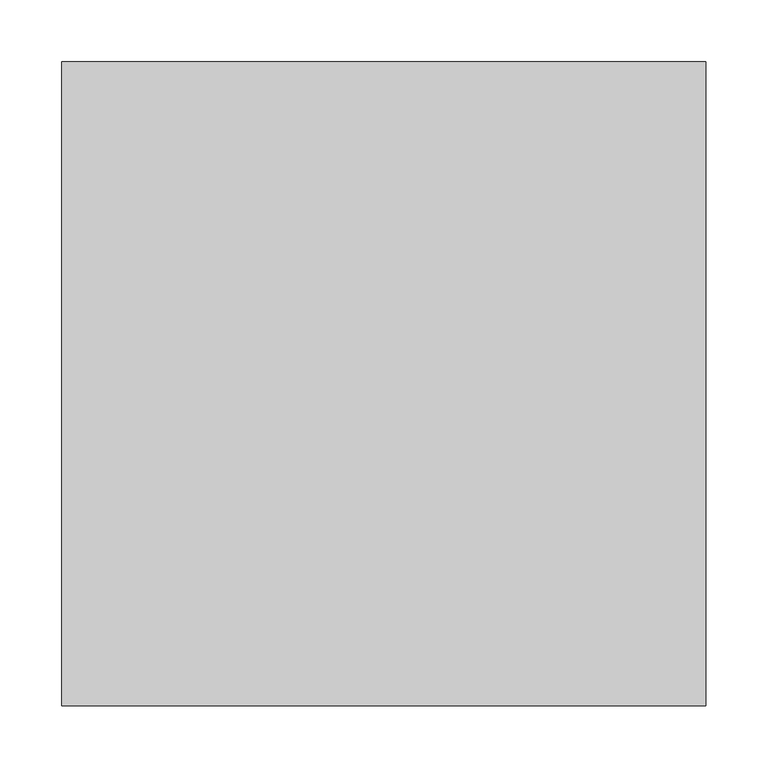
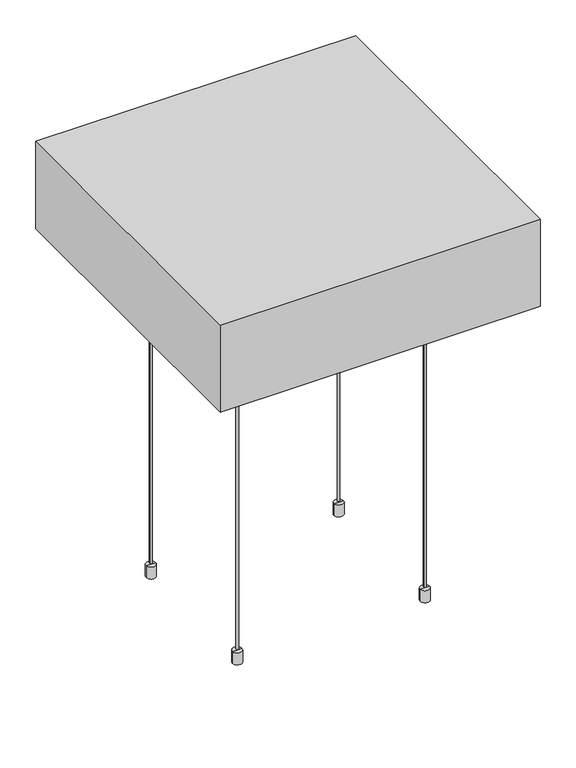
"""IFC4 building model written with IfcOpenShell, lengths in millimetres: light fixture geometry, OWA Corpus LED : Corpus Q1 520x520x150 tunable white."""

from ifc_helpers import new_model, si_unit, point, frame, frame_2d, origin, place, context, project, spatial, polyline, circle_curve, trimmed, segment, composite_curve, outline, extrude, faceted_brep, source, transform, mapped, element, save
from ifc_brep_helpers import plane_surface, cylinder_surface, advanced_brep


def light_fixture_98942b3c(model_context):
    return source(origin(), model_context, "Body", "SolidModel", [
        extrude(outline(composite_curve([segment(trimmed(circle_curve(frame_2d((-121.5, 540.0)), 5.0), [point((-121.5, 535.0))], [point((-126.5, 540.0))], True, "CARTESIAN"), True, "CONTINUOUS"), segment(polyline([(-126.5, 540.0), (-129.5, 540.0)]), True, "CONTINUOUS"), segment(trimmed(circle_curve(frame_2d((-121.5, 540.0)), 8.0), [point((-129.5, 540.0))], [point((-119.5, 532.2540333))], False, "CARTESIAN"), True, "CONTINUOUS"), segment(polyline([(-119.5, 532.2540333), (-119.5, 520.0), (-123.5, 520.0), (-123.5, 535.0), (-121.5, 535.0)]), True, "CONTINUOUS")], self_intersect=False)), frame((-282.5, 0.0, 0.0), z_axis=(1.0, 0.0, 0.0), x_axis=(0.0, 1.0, 0.0)), (0.0, 0.0, 1.0), 3.0),
        extrude(outline(composite_curve([segment(trimmed(circle_curve(frame_2d((546.0, -281.0)), 5.0), [point((546.0, -276.0))], [point((546.0, -286.0))], False, "CARTESIAN"), True, "CONTINUOUS"), segment(trimmed(circle_curve(frame_2d((546.0, -281.0)), 5.0), [point((546.0, -286.0))], [point((546.0, -276.0))], False, "CARTESIAN"), True, "CONTINUOUS")], self_intersect=False), holes=[composite_curve([segment(trimmed(circle_curve(frame_2d((546.0, -281.0)), 3.0085987), [point((546.0, -277.9914013))], [point((546.0, -284.0085987))], True, "CARTESIAN"), True, "CONTINUOUS"), segment(trimmed(circle_curve(frame_2d((546.0, -281.0)), 3.0085987), [point((546.0, -284.0085987))], [point((546.0, -277.9914013))], True, "CARTESIAN"), True, "CONTINUOUS")], self_intersect=False)]), frame((0.0, -123.0, 0.0), z_axis=(0.0, 1.0, 0.0), x_axis=(0.0, 0.0, 1.0)), (0.0, 0.0, 1.0), 3.0),
        advanced_brep(
        [(-281.0, -121.5, 0.0), (-273.2593825, -121.5, 0.0), (-288.7406175, -121.5, 0.0), (-273.2593825, -121.5, 20.0), (-288.7406175, -121.5, 20.0), (-281.0, -121.5, 20.0)],
        [
            (0, 1),
            (1, 2, circle_curve(frame((-281.0, -121.5, 0.0), z_axis=(0.0, 0.0, -1.0), x_axis=(-1.0, 0.0, 0.0)), 7.7406175)),
            (2, 0),
            (2, 1, circle_curve(frame((-281.0, -121.5, 0.0), z_axis=(0.0, 0.0, -1.0), x_axis=(-1.0, 0.0, 0.0)), 7.7406175)),
            (1, 3),
            (3, 4, circle_curve(frame((-281.0, -121.5, 20.0), z_axis=(0.0, 0.0, -1.0), x_axis=(-1.0, 0.0, 0.0)), 7.7406175)),
            (4, 2),
            (4, 3, circle_curve(frame((-281.0, -121.5, 20.0), z_axis=(0.0, 0.0, -1.0), x_axis=(-1.0, 0.0, 0.0)), 7.7406175)),
            (3, 5),
            (5, 4),
        ],
        [
            plane_surface(frame((-281.0, -121.5, 0.0), z_axis=(0.0, 0.0, -1.0), x_axis=(-1.0, 0.0, 0.0))),
            cylinder_surface(frame((-281.0, -121.5, -10.0), z_axis=(0.0, 0.0, -1.0), x_axis=(-1.0, 0.0, 0.0)), 7.7406175),
            plane_surface(frame((-281.0, -121.5, 20.0), z_axis=(0.0, 0.0, 1.0), x_axis=(-1.0, 0.0, 0.0))),
        ],
        [
            (0, [[1, 2, 3]]),
            (0, [[-3, 4, -1]]),
            (1, [[5, 6, 7, -2]]),
            (1, [[-7, 8, -5, -4]]),
            (2, [[9, 10, -6]]),
            (2, [[-10, -9, -8]]),
        ],
    ),
        advanced_brep(
        [(-278.0, -121.5, 551.0), (-278.0, -121.5, 560.0), (-284.0, -121.5, 560.0), (-284.0, -121.5, 551.0), (-281.0, -121.5, 560.0), (-281.0, -121.5, 551.0)],
        [
            (0, 1),
            (1, 2, circle_curve(frame((-281.0, -121.5, 560.0), z_axis=(0.0, 0.0, -1.0), x_axis=(-1.0, 0.0, 0.0)), 3.0)),
            (2, 3),
            (3, 0, circle_curve(frame((-281.0, -121.5, 551.0), z_axis=(0.0, 0.0, 1.0), x_axis=(-1.0, 0.0, 0.0)), 3.0)),
            (2, 1, circle_curve(frame((-281.0, -121.5, 560.0), z_axis=(0.0, 0.0, -1.0), x_axis=(-1.0, 0.0, 0.0)), 3.0)),
            (0, 3, circle_curve(frame((-281.0, -121.5, 551.0), z_axis=(0.0, 0.0, 1.0), x_axis=(-1.0, 0.0, 0.0)), 3.0)),
            (1, 4),
            (4, 2),
            (5, 0),
            (3, 5),
        ],
        [
            cylinder_surface(frame((-281.0, -121.5, 561.8401096), z_axis=(0.0, 0.0, -1.0), x_axis=(-1.0, 0.0, 0.0)), 3.0),
            plane_surface(frame((-281.0, -121.5, 560.0), z_axis=(0.0, 0.0, 1.0), x_axis=(-1.0, 0.0, 0.0))),
            plane_surface(frame((-281.0, -121.5, 551.0), z_axis=(0.0, 0.0, -1.0), x_axis=(-1.0, 0.0, 0.0))),
        ],
        [
            (0, [[1, 2, 3, 4]]),
            (0, [[-3, 5, -1, 6]]),
            (1, [[7, 8, -2]]),
            (1, [[-8, -7, -5]]),
            (2, [[9, -4, 10]]),
            (2, [[-10, -6, -9]]),
        ],
    ),
        extrude(outline(composite_curve([segment(trimmed(circle_curve(frame_2d((-281.0, -121.5)), 2.0), [point((-283.0, -121.5))], [point((-279.0, -121.5))], False, "CARTESIAN"), True, "CONTINUOUS"), segment(trimmed(circle_curve(frame_2d((-281.0, -121.5)), 2.0), [point((-279.0, -121.5))], [point((-283.0, -121.5))], False, "CARTESIAN"), True, "CONTINUOUS")], self_intersect=False)), frame((0.0, 0.0, 22.546183), z_axis=(0.0, 0.0, 1.0), x_axis=(1.0, 0.0, 0.0)), (0.0, 0.0, 1.0), 497.453817),
        extrude(outline(composite_curve([segment(trimmed(circle_curve(frame_2d((-121.5, 540.0)), 5.0), [point((-121.5, 535.0))], [point((-126.5, 540.0))], True, "CARTESIAN"), True, "CONTINUOUS"), segment(polyline([(-126.5, 540.0), (-129.5, 540.0)]), True, "CONTINUOUS"), segment(trimmed(circle_curve(frame_2d((-121.5, 540.0)), 8.0), [point((-129.5, 540.0))], [point((-119.5, 532.2540333))], False, "CARTESIAN"), True, "CONTINUOUS"), segment(polyline([(-119.5, 532.2540333), (-119.5, 520.0), (-123.5, 520.0), (-123.5, 535.0), (-121.5, 535.0)]), True, "CONTINUOUS")], self_intersect=False)), frame((-587.5, 0.0, 0.0), z_axis=(1.0, 0.0, 0.0), x_axis=(0.0, 1.0, 0.0)), (0.0, 0.0, 1.0), 3.0),
        extrude(outline(composite_curve([segment(trimmed(circle_curve(frame_2d((546.0, -586.0)), 5.0), [point((546.0, -591.0))], [point((546.0, -581.0))], False, "CARTESIAN"), True, "CONTINUOUS"), segment(trimmed(circle_curve(frame_2d((546.0, -586.0)), 5.0), [point((546.0, -581.0))], [point((546.0, -591.0))], False, "CARTESIAN"), True, "CONTINUOUS")], self_intersect=False), holes=[composite_curve([segment(trimmed(circle_curve(frame_2d((546.0, -586.0)), 3.0085987), [point((546.0, -589.0085987))], [point((546.0, -582.9914013))], True, "CARTESIAN"), True, "CONTINUOUS"), segment(trimmed(circle_curve(frame_2d((546.0, -586.0)), 3.0085987), [point((546.0, -582.9914013))], [point((546.0, -589.0085987))], True, "CARTESIAN"), True, "CONTINUOUS")], self_intersect=False)]), frame((0.0, -123.0, 0.0), z_axis=(0.0, 1.0, 0.0), x_axis=(0.0, 0.0, 1.0)), (0.0, 0.0, 1.0), 3.0),
        advanced_brep(
        [(-586.0, -121.5, 0.0), (-578.2593825, -121.5, 0.0), (-593.7406175, -121.5, 0.0), (-578.2593825, -121.5, 20.0), (-593.7406175, -121.5, 20.0), (-586.0, -121.5, 20.0)],
        [
            (0, 1),
            (1, 2, circle_curve(frame((-586.0, -121.5, 0.0), z_axis=(0.0, 0.0, -1.0), x_axis=(1.0, 0.0, 0.0)), 7.7406175)),
            (2, 0),
            (2, 1, circle_curve(frame((-586.0, -121.5, 0.0), z_axis=(0.0, 0.0, -1.0), x_axis=(1.0, 0.0, 0.0)), 7.7406175)),
            (1, 3),
            (3, 4, circle_curve(frame((-586.0, -121.5, 20.0), z_axis=(0.0, 0.0, -1.0), x_axis=(1.0, 0.0, 0.0)), 7.7406175)),
            (4, 2),
            (4, 3, circle_curve(frame((-586.0, -121.5, 20.0), z_axis=(0.0, 0.0, -1.0), x_axis=(1.0, 0.0, 0.0)), 7.7406175)),
            (3, 5),
            (5, 4),
        ],
        [
            plane_surface(frame((-586.0, -121.5, 0.0), z_axis=(0.0, 0.0, -1.0), x_axis=(1.0, 0.0, 0.0))),
            cylinder_surface(frame((-586.0, -121.5, -10.0), z_axis=(0.0, 0.0, -1.0), x_axis=(1.0, 0.0, 0.0)), 7.7406175),
            plane_surface(frame((-586.0, -121.5, 20.0), z_axis=(0.0, 0.0, 1.0), x_axis=(1.0, 0.0, 0.0))),
        ],
        [
            (0, [[1, 2, 3]]),
            (0, [[-3, 4, -1]]),
            (1, [[-2, 5, 6, 7]]),
            (1, [[-4, -7, 8, -5]]),
            (2, [[-6, 9, 10]]),
            (2, [[-8, -10, -9]]),
        ],
    ),
        advanced_brep(
        [(-589.0, -121.5, 551.0), (-583.0, -121.5, 551.0), (-583.0, -121.5, 560.0), (-589.0, -121.5, 560.0), (-586.0, -121.5, 560.0), (-586.0, -121.5, 551.0)],
        [
            (0, 1, circle_curve(frame((-586.0, -121.5, 551.0), z_axis=(0.0, 0.0, 1.0), x_axis=(1.0, 0.0, 0.0)), 3.0)),
            (1, 2),
            (2, 3, circle_curve(frame((-586.0, -121.5, 560.0), z_axis=(0.0, 0.0, -1.0), x_axis=(1.0, 0.0, 0.0)), 3.0)),
            (3, 0),
            (1, 0, circle_curve(frame((-586.0, -121.5, 551.0), z_axis=(0.0, 0.0, 1.0), x_axis=(1.0, 0.0, 0.0)), 3.0)),
            (3, 2, circle_curve(frame((-586.0, -121.5, 560.0), z_axis=(0.0, 0.0, -1.0), x_axis=(1.0, 0.0, 0.0)), 3.0)),
            (2, 4),
            (4, 3),
            (5, 1),
            (0, 5),
        ],
        [
            cylinder_surface(frame((-586.0, -121.5, 561.8401096), z_axis=(0.0, 0.0, -1.0), x_axis=(1.0, 0.0, 0.0)), 3.0),
            plane_surface(frame((-586.0, -121.5, 560.0), z_axis=(0.0, 0.0, 1.0), x_axis=(1.0, 0.0, 0.0))),
            plane_surface(frame((-586.0, -121.5, 551.0), z_axis=(0.0, 0.0, -1.0), x_axis=(1.0, 0.0, 0.0))),
        ],
        [
            (0, [[1, 2, 3, 4]]),
            (0, [[5, -4, 6, -2]]),
            (1, [[-3, 7, 8]]),
            (1, [[-6, -8, -7]]),
            (2, [[9, -1, 10]]),
            (2, [[-10, -5, -9]]),
        ],
    ),
        extrude(outline(composite_curve([segment(trimmed(circle_curve(frame_2d((-586.0, -121.5)), 2.0), [point((-584.0, -121.5))], [point((-588.0, -121.5))], False, "CARTESIAN"), True, "CONTINUOUS"), segment(trimmed(circle_curve(frame_2d((-586.0, -121.5)), 2.0), [point((-588.0, -121.5))], [point((-584.0, -121.5))], False, "CARTESIAN"), True, "CONTINUOUS")], self_intersect=False)), frame((0.0, 0.0, 22.546183), z_axis=(0.0, 0.0, 1.0), x_axis=(1.0, 0.0, 0.0)), (0.0, 0.0, 1.0), 497.453817),
        extrude(outline(composite_curve([segment(polyline([(121.5, 535.0), (123.5, 535.0), (123.5, 520.0), (119.5, 520.0), (119.5, 532.2540333)]), True, "CONTINUOUS"), segment(trimmed(circle_curve(frame_2d((121.5, 540.0)), 8.0), [point((119.5, 532.2540333))], [point((129.5, 540.0))], False, "CARTESIAN"), True, "CONTINUOUS"), segment(polyline([(129.5, 540.0), (126.5, 540.0)]), True, "CONTINUOUS"), segment(trimmed(circle_curve(frame_2d((121.5, 540.0)), 5.0), [point((126.5, 540.0))], [point((121.5, 535.0))], True, "CARTESIAN"), True, "CONTINUOUS")], self_intersect=False)), frame((-587.5, 0.0, 0.0), z_axis=(1.0, 0.0, 0.0), x_axis=(0.0, 1.0, 0.0)), (0.0, 0.0, 1.0), 3.0),
        extrude(outline(composite_curve([segment(trimmed(circle_curve(frame_2d((546.0, -586.0)), 5.0), [point((546.0, -591.0))], [point((546.0, -581.0))], False, "CARTESIAN"), True, "CONTINUOUS"), segment(trimmed(circle_curve(frame_2d((546.0, -586.0)), 5.0), [point((546.0, -581.0))], [point((546.0, -591.0))], False, "CARTESIAN"), True, "CONTINUOUS")], self_intersect=False), holes=[composite_curve([segment(trimmed(circle_curve(frame_2d((546.0, -586.0)), 3.0085987), [point((546.0, -589.0085987))], [point((546.0, -582.9914013))], True, "CARTESIAN"), True, "CONTINUOUS"), segment(trimmed(circle_curve(frame_2d((546.0, -586.0)), 3.0085987), [point((546.0, -582.9914013))], [point((546.0, -589.0085987))], True, "CARTESIAN"), True, "CONTINUOUS")], self_intersect=False)]), frame((0.0, 120.0, 0.0), z_axis=(0.0, 1.0, 0.0), x_axis=(0.0, 0.0, 1.0)), (0.0, 0.0, 1.0), 3.0),
        advanced_brep(
        [(-586.0, 121.5, 0.0), (-593.7406175, 121.5, 0.0), (-578.2593825, 121.5, 0.0), (-593.7406175, 121.5, 20.0), (-578.2593825, 121.5, 20.0), (-586.0, 121.5, 20.0)],
        [
            (0, 1),
            (1, 2, circle_curve(frame((-586.0, 121.5, 0.0), z_axis=(0.0, 0.0, -1.0), x_axis=(1.0, 0.0, 0.0)), 7.7406175)),
            (2, 0),
            (2, 1, circle_curve(frame((-586.0, 121.5, 0.0), z_axis=(0.0, 0.0, -1.0), x_axis=(1.0, 0.0, 0.0)), 7.7406175)),
            (1, 3),
            (3, 4, circle_curve(frame((-586.0, 121.5, 20.0), z_axis=(0.0, 0.0, -1.0), x_axis=(1.0, 0.0, 0.0)), 7.7406175)),
            (4, 2),
            (4, 3, circle_curve(frame((-586.0, 121.5, 20.0), z_axis=(0.0, 0.0, -1.0), x_axis=(1.0, 0.0, 0.0)), 7.7406175)),
            (3, 5),
            (5, 4),
        ],
        [
            plane_surface(frame((-586.0, 121.5, 0.0), z_axis=(0.0, 0.0, -1.0), x_axis=(1.0, 0.0, 0.0))),
            cylinder_surface(frame((-586.0, 121.5, -10.0), z_axis=(0.0, 0.0, -1.0), x_axis=(1.0, 0.0, 0.0)), 7.7406175),
            plane_surface(frame((-586.0, 121.5, 20.0), z_axis=(0.0, 0.0, 1.0), x_axis=(1.0, 0.0, 0.0))),
        ],
        [
            (0, [[1, 2, 3]]),
            (0, [[-3, 4, -1]]),
            (1, [[5, 6, 7, -2]]),
            (1, [[-7, 8, -5, -4]]),
            (2, [[9, 10, -6]]),
            (2, [[-10, -9, -8]]),
        ],
    ),
        advanced_brep(
        [(-589.0, 121.5, 551.0), (-589.0, 121.5, 560.0), (-583.0, 121.5, 560.0), (-583.0, 121.5, 551.0), (-586.0, 121.5, 560.0), (-586.0, 121.5, 551.0)],
        [
            (0, 1),
            (1, 2, circle_curve(frame((-586.0, 121.5, 560.0), z_axis=(0.0, 0.0, -1.0), x_axis=(1.0, 0.0, 0.0)), 3.0)),
            (2, 3),
            (3, 0, circle_curve(frame((-586.0, 121.5, 551.0), z_axis=(0.0, 0.0, 1.0), x_axis=(1.0, 0.0, 0.0)), 3.0)),
            (2, 1, circle_curve(frame((-586.0, 121.5, 560.0), z_axis=(0.0, 0.0, -1.0), x_axis=(1.0, 0.0, 0.0)), 3.0)),
            (0, 3, circle_curve(frame((-586.0, 121.5, 551.0), z_axis=(0.0, 0.0, 1.0), x_axis=(1.0, 0.0, 0.0)), 3.0)),
            (1, 4),
            (4, 2),
            (5, 0),
            (3, 5),
        ],
        [
            cylinder_surface(frame((-586.0, 121.5, 561.8401096), z_axis=(0.0, 0.0, -1.0), x_axis=(1.0, 0.0, 0.0)), 3.0),
            plane_surface(frame((-586.0, 121.5, 560.0), z_axis=(0.0, 0.0, 1.0), x_axis=(1.0, 0.0, 0.0))),
            plane_surface(frame((-586.0, 121.5, 551.0), z_axis=(0.0, 0.0, -1.0), x_axis=(1.0, 0.0, 0.0))),
        ],
        [
            (0, [[1, 2, 3, 4]]),
            (0, [[-3, 5, -1, 6]]),
            (1, [[7, 8, -2]]),
            (1, [[-8, -7, -5]]),
            (2, [[9, -4, 10]]),
            (2, [[-10, -6, -9]]),
        ],
    ),
        extrude(outline(composite_curve([segment(trimmed(circle_curve(frame_2d((-586.0, 121.5)), 2.0), [point((-584.0, 121.5))], [point((-588.0, 121.5))], False, "CARTESIAN"), True, "CONTINUOUS"), segment(trimmed(circle_curve(frame_2d((-586.0, 121.5)), 2.0), [point((-588.0, 121.5))], [point((-584.0, 121.5))], False, "CARTESIAN"), True, "CONTINUOUS")], self_intersect=False)), frame((0.0, 0.0, 22.546183), z_axis=(0.0, 0.0, 1.0), x_axis=(1.0, 0.0, 0.0)), (0.0, 0.0, 1.0), 497.453817),
        extrude(outline(composite_curve([segment(polyline([(121.5, 535.0), (123.5, 535.0), (123.5, 520.0), (119.5, 520.0), (119.5, 532.2540333)]), True, "CONTINUOUS"), segment(trimmed(circle_curve(frame_2d((121.5, 540.0)), 8.0), [point((119.5, 532.2540333))], [point((129.5, 540.0))], False, "CARTESIAN"), True, "CONTINUOUS"), segment(polyline([(129.5, 540.0), (126.5, 540.0)]), True, "CONTINUOUS"), segment(trimmed(circle_curve(frame_2d((121.5, 540.0)), 5.0), [point((126.5, 540.0))], [point((121.5, 535.0))], True, "CARTESIAN"), True, "CONTINUOUS")], self_intersect=False)), frame((-282.5, 0.0, 0.0), z_axis=(1.0, 0.0, 0.0), x_axis=(0.0, 1.0, 0.0)), (0.0, 0.0, 1.0), 3.0),
        extrude(outline(composite_curve([segment(trimmed(circle_curve(frame_2d((546.0, -281.0)), 5.0), [point((546.0, -276.0))], [point((546.0, -286.0))], False, "CARTESIAN"), True, "CONTINUOUS"), segment(trimmed(circle_curve(frame_2d((546.0, -281.0)), 5.0), [point((546.0, -286.0))], [point((546.0, -276.0))], False, "CARTESIAN"), True, "CONTINUOUS")], self_intersect=False), holes=[composite_curve([segment(trimmed(circle_curve(frame_2d((546.0, -281.0)), 3.0085987), [point((546.0, -277.9914013))], [point((546.0, -284.0085987))], True, "CARTESIAN"), True, "CONTINUOUS"), segment(trimmed(circle_curve(frame_2d((546.0, -281.0)), 3.0085987), [point((546.0, -284.0085987))], [point((546.0, -277.9914013))], True, "CARTESIAN"), True, "CONTINUOUS")], self_intersect=False)]), frame((0.0, 120.0, 0.0), z_axis=(0.0, 1.0, 0.0), x_axis=(0.0, 0.0, 1.0)), (0.0, 0.0, 1.0), 3.0),
        advanced_brep(
        [(-281.0, 121.5, 0.0), (-288.7406175, 121.5, 0.0), (-273.2593825, 121.5, 0.0), (-288.7406175, 121.5, 20.0), (-273.2593825, 121.5, 20.0), (-281.0, 121.5, 20.0)],
        [
            (0, 1),
            (1, 2, circle_curve(frame((-281.0, 121.5, 0.0), z_axis=(0.0, 0.0, -1.0), x_axis=(-1.0, 0.0, 0.0)), 7.7406175)),
            (2, 0),
            (2, 1, circle_curve(frame((-281.0, 121.5, 0.0), z_axis=(0.0, 0.0, -1.0), x_axis=(-1.0, 0.0, 0.0)), 7.7406175)),
            (1, 3),
            (3, 4, circle_curve(frame((-281.0, 121.5, 20.0), z_axis=(0.0, 0.0, -1.0), x_axis=(-1.0, 0.0, 0.0)), 7.7406175)),
            (4, 2),
            (4, 3, circle_curve(frame((-281.0, 121.5, 20.0), z_axis=(0.0, 0.0, -1.0), x_axis=(-1.0, 0.0, 0.0)), 7.7406175)),
            (3, 5),
            (5, 4),
        ],
        [
            plane_surface(frame((-281.0, 121.5, 0.0), z_axis=(0.0, 0.0, -1.0), x_axis=(-1.0, 0.0, 0.0))),
            cylinder_surface(frame((-281.0, 121.5, -10.0), z_axis=(0.0, 0.0, -1.0), x_axis=(-1.0, 0.0, 0.0)), 7.7406175),
            plane_surface(frame((-281.0, 121.5, 20.0), z_axis=(0.0, 0.0, 1.0), x_axis=(-1.0, 0.0, 0.0))),
        ],
        [
            (0, [[1, 2, 3]]),
            (0, [[-3, 4, -1]]),
            (1, [[-2, 5, 6, 7]]),
            (1, [[-4, -7, 8, -5]]),
            (2, [[-6, 9, 10]]),
            (2, [[-8, -10, -9]]),
        ],
    ),
        advanced_brep(
        [(-278.0, 121.5, 551.0), (-284.0, 121.5, 551.0), (-284.0, 121.5, 560.0), (-278.0, 121.5, 560.0), (-281.0, 121.5, 560.0), (-281.0, 121.5, 551.0)],
        [
            (0, 1, circle_curve(frame((-281.0, 121.5, 551.0), z_axis=(0.0, 0.0, 1.0), x_axis=(-1.0, 0.0, 0.0)), 3.0)),
            (1, 2),
            (2, 3, circle_curve(frame((-281.0, 121.5, 560.0), z_axis=(0.0, 0.0, -1.0), x_axis=(-1.0, 0.0, 0.0)), 3.0)),
            (3, 0),
            (1, 0, circle_curve(frame((-281.0, 121.5, 551.0), z_axis=(0.0, 0.0, 1.0), x_axis=(-1.0, 0.0, 0.0)), 3.0)),
            (3, 2, circle_curve(frame((-281.0, 121.5, 560.0), z_axis=(0.0, 0.0, -1.0), x_axis=(-1.0, 0.0, 0.0)), 3.0)),
            (2, 4),
            (4, 3),
            (5, 1),
            (0, 5),
        ],
        [
            cylinder_surface(frame((-281.0, 121.5, 561.8401096), z_axis=(0.0, 0.0, -1.0), x_axis=(-1.0, 0.0, 0.0)), 3.0),
            plane_surface(frame((-281.0, 121.5, 560.0), z_axis=(0.0, 0.0, 1.0), x_axis=(-1.0, 0.0, 0.0))),
            plane_surface(frame((-281.0, 121.5, 551.0), z_axis=(0.0, 0.0, -1.0), x_axis=(-1.0, 0.0, 0.0))),
        ],
        [
            (0, [[1, 2, 3, 4]]),
            (0, [[5, -4, 6, -2]]),
            (1, [[-3, 7, 8]]),
            (1, [[-6, -8, -7]]),
            (2, [[9, -1, 10]]),
            (2, [[-10, -5, -9]]),
        ],
    ),
        extrude(outline(composite_curve([segment(trimmed(circle_curve(frame_2d((-281.0, 121.5)), 2.0), [point((-283.0, 121.5))], [point((-279.0, 121.5))], False, "CARTESIAN"), True, "CONTINUOUS"), segment(trimmed(circle_curve(frame_2d((-281.0, 121.5)), 2.0), [point((-279.0, 121.5))], [point((-283.0, 121.5))], False, "CARTESIAN"), True, "CONTINUOUS")], self_intersect=False)), frame((0.0, 0.0, 22.546183), z_axis=(0.0, 0.0, 1.0), x_axis=(1.0, 0.0, 0.0)), (0.0, 0.0, 1.0), 497.453817),
        extrude(outline(polyline([(-301.0, 195.0), (-301.0, -195.0), (-566.0, -195.0), (-566.0, 195.0), (-301.0, 195.0)])), frame((0.0, 0.0, 531.2), z_axis=(0.0, 0.0, 1.0), x_axis=(1.0, 0.0, 0.0)), (0.0, 0.0, 1.0), 28.8),
        faceted_brep([(-173.5, 260.0, 700.0), (-693.5, 260.0, 700.0), (-693.5, -260.0, 700.0), (-173.5, -260.0, 700.0), (-213.5, 220.0, 560.0), (-213.5, -220.0, 560.0), (-653.5, -220.0, 560.0), (-653.5, 220.0, 560.0), (-173.5, 260.0, 550.0), (-173.5, -260.0, 550.0), (-693.5, -260.0, 550.0), (-693.5, 260.0, 550.0), (-213.5, 220.0, 550.0), (-653.5, 220.0, 550.0), (-653.5, -220.0, 550.0), (-213.5, -220.0, 550.0)], [[[0, 1, 2, 3]], [[4, 5, 6, 7]], [[8, 9, 10, 11], [12, 13, 14, 15]], [[1, 0, 8, 11]], [[2, 1, 11, 10]], [[3, 2, 10, 9]], [[0, 3, 9, 8]], [[12, 15, 5, 4]], [[15, 14, 6, 5]], [[14, 13, 7, 6]], [[13, 12, 4, 7]]]),
    ])


if __name__ == "__main__":
    model = new_model("IFC4")
    model_context = context("Model", 3, world=origin())
    ifc_project = project(units=[si_unit("LENGTHUNIT", "METRE", prefix="MILLI")], contexts=[model_context])
    site = spatial("IfcSite", under=ifc_project)
    building = spatial("IfcBuilding", under=site)
    placement = place(None, origin())
    light_fixture_shape = light_fixture_98942b3c(model_context)
    element("IfcLightFixture", 1, ObjectType="OWA Corpus LED : Corpus Q1 520x520x150 tunable white", at=placement, inside=building, context=model_context, shape_type="MappedRepresentation", body=[
        mapped(light_fixture_shape, transform((0.0, 0.0, 0.0), x_axis=(1.0, 0.0, 0.0), y_axis=(0.0, 1.0, 0.0), z_axis=(0.0, 0.0, 1.0))),
    ])
    save(model, "model.ifc")
